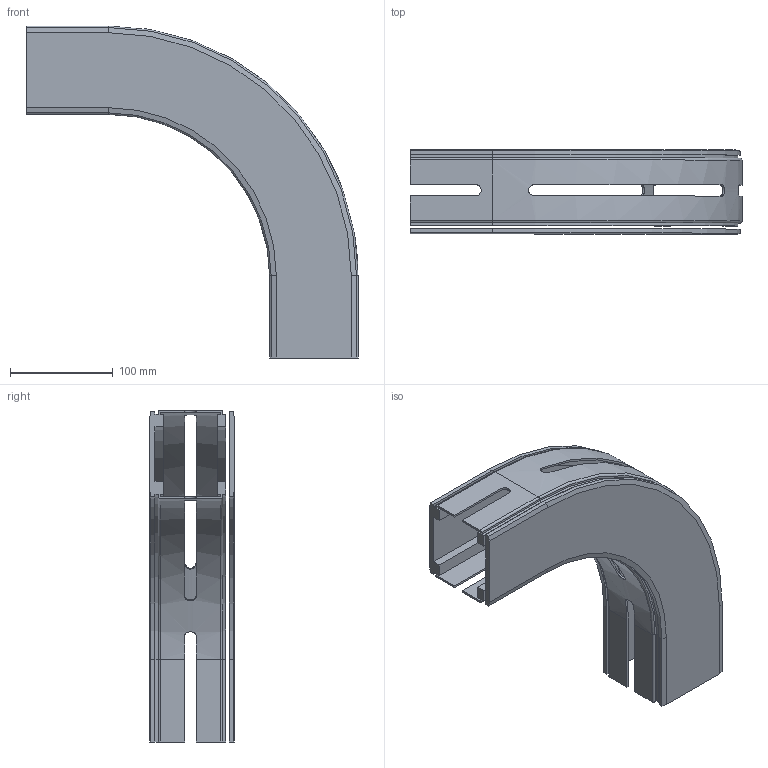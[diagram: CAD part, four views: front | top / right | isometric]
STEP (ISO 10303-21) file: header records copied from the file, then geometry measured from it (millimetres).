
FILE_DESCRIPTION(/* description */ ('GLIDKURVA SERIE 530'),/* implementation_level */ '2;1');
FILE_NAME(/* name */ '530-5375+830-2000-01.stp',/* time_stamp */ '2022-09-20T14:41:21+02:00',/* author */ ('Mathias.Dore'),/* organization */ ('CARRYLINE'),/* preprocessor_version */ 'ST-DEVELOPER v19.2',/* originating_system */ 'Autodesk Inventor 2023',/* authorisation */ '');
FILE_SCHEMA (('AUTOMOTIVE_DESIGN { 1 0 10303 214 3 1 1 }'));
Length unit declared in the file: millimetre
Products named in the file (1): 530-5375+830-2000-01
Bounding box: 323 x 82 x 323 mm (x, y, z)
Volume: 686781.1 mm3; surface area: 329911.2 mm2
Topology: 2 solids, 2 shells, 171 faces, 470 edges, 308 vertices
Faces by surface type: plane 113, cylinder 30, bspline 20, torus 4, cone 4
Entity records: 5885 total; most frequent: CARTESIAN_POINT 1486, ORIENTED_EDGE 940, DIRECTION 818, EDGE_CURVE 470, LINE 346, VECTOR 346, VERTEX_POINT 308, AXIS2_PLACEMENT_3D 236
